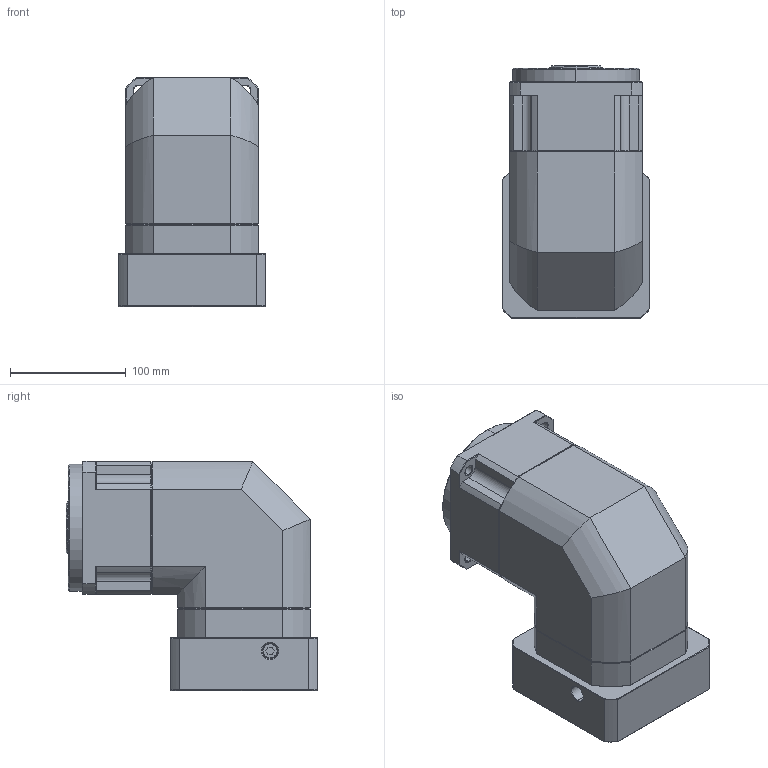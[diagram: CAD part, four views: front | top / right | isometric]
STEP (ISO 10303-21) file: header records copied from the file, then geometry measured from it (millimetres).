
FILE_DESCRIPTION (( 'STEP AP214' ), '1' );
FILE_NAME ('ZPBR115-K32-L1-P1-28-110-145-M8.step', '2024-06-29T08:13:07', ( 'Windows 蚚誧' ), ( 'Organization' ), 'SwSTEP 2.0', 'SolidWorks 2016', '' );
FILE_SCHEMA (( 'AUTOMOTIVE_DESIGN' ));
Length unit declared in the file: millimetre
Products named in the file (1): ZPBR115-K32-L1-P1-28-110-145-M8
Bounding box: 128 x 218 x 198.2 mm (x, y, z)
Surface area: 193272.9 mm2 (no closed solid volume)
Topology: 0 solids, 28 shells, 1790 faces, 4817 edges, 3090 vertices
Faces by surface type: plane 923, bspline 374, cone 264, cylinder 229
Entity records: 86356 total; most frequent: CARTESIAN_POINT 37846, ORIENTED_EDGE 9632, DIRECTION 7374, EDGE_CURVE 4817, LINE 3154, VECTOR 3154, VERTEX_POINT 3090, AXIS2_PLACEMENT_3D 2110
